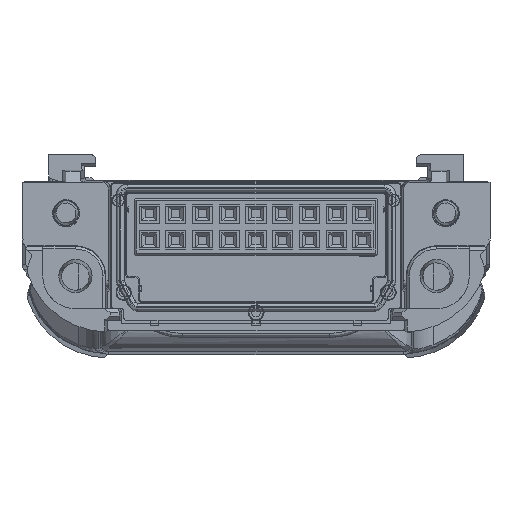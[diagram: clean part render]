
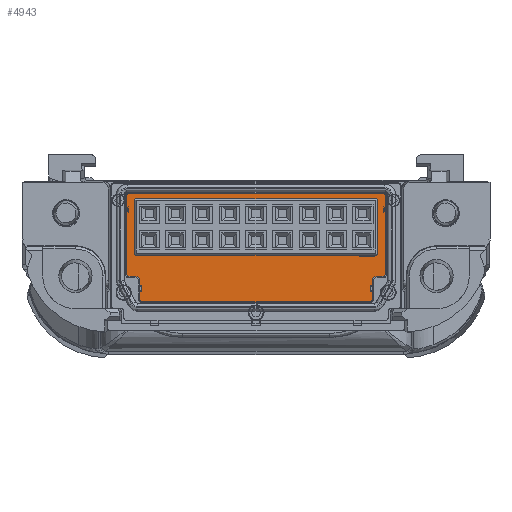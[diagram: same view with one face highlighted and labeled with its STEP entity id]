
A CAD part, top view. The second image highlights one B-rep face of the part: STEP entity #4943.
In plain terms, the highlighted planar face has unit normal (0, 0, 1) as drawn and (0, 0, -1) by its records, which use the part's own axes.
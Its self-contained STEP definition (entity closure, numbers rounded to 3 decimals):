
#400=ELLIPSE('',#13819,0.3,0.3);
#401=ELLIPSE('',#13820,0.3,0.3);
#402=ELLIPSE('',#13821,0.3,0.3);
#403=ELLIPSE('',#13822,0.3,0.3);
#404=ELLIPSE('',#13823,0.3,0.3);
#405=ELLIPSE('',#13824,0.3,0.3);
#406=ELLIPSE('',#13825,0.3,0.3);
#407=ELLIPSE('',#13826,0.3,0.3);
#1521=LINE('',#21059,#2897);
#1523=LINE('',#21063,#2899);
#1527=LINE('',#21075,#2903);
#1528=LINE('',#21077,#2904);
#1529=LINE('',#21097,#2905);
#1530=LINE('',#21102,#2906);
#1531=LINE('',#21106,#2907);
#1532=LINE('',#21110,#2908);
#1533=LINE('',#21114,#2909);
#1534=LINE('',#21118,#2910);
#1535=LINE('',#21122,#2911);
#1536=LINE('',#21126,#2912);
#2897=VECTOR('',#16508,1.);
#2899=VECTOR('',#16512,1.);
#2903=VECTOR('',#16526,1.);
#2904=VECTOR('',#16529,1.);
#2905=VECTOR('',#16568,1.);
#2906=VECTOR('',#16571,1.);
#2907=VECTOR('',#16574,1.);
#2908=VECTOR('',#16577,1.);
#2909=VECTOR('',#16580,1.);
#2910=VECTOR('',#16583,1.);
#2911=VECTOR('',#16586,1.);
#2912=VECTOR('',#16589,1.);
#3658=PLANE('',#13827);
#4943=ADVANCED_FACE('',(#5428,#5429),#3658,.F.);
#5428=FACE_BOUND('',#6035,.T.);
#5429=FACE_BOUND('',#6036,.T.);
#6035=EDGE_LOOP('',(#8722,#8723,#8724,#8725,#8726,#8727,#8728,#8729,#8730,
#8731,#8732,#8733,#8734,#8735,#8736,#8737));
#6036=EDGE_LOOP('',(#8738,#8739,#8740,#8741,#8742,#8743,#8744,#8745));
#8722=ORIENTED_EDGE('',*,*,#12480,.T.);
#8723=ORIENTED_EDGE('',*,*,#12481,.T.);
#8724=ORIENTED_EDGE('',*,*,#12482,.T.);
#8725=ORIENTED_EDGE('',*,*,#12483,.T.);
#8726=ORIENTED_EDGE('',*,*,#12484,.T.);
#8727=ORIENTED_EDGE('',*,*,#12485,.T.);
#8728=ORIENTED_EDGE('',*,*,#12486,.T.);
#8729=ORIENTED_EDGE('',*,*,#12487,.T.);
#8730=ORIENTED_EDGE('',*,*,#12488,.T.);
#8731=ORIENTED_EDGE('',*,*,#12489,.T.);
#8732=ORIENTED_EDGE('',*,*,#12490,.T.);
#8733=ORIENTED_EDGE('',*,*,#12491,.T.);
#8734=ORIENTED_EDGE('',*,*,#12492,.T.);
#8735=ORIENTED_EDGE('',*,*,#12493,.T.);
#8736=ORIENTED_EDGE('',*,*,#12494,.T.);
#8737=ORIENTED_EDGE('',*,*,#12495,.T.);
#8738=ORIENTED_EDGE('',*,*,#12476,.T.);
#8739=ORIENTED_EDGE('',*,*,#12472,.T.);
#8740=ORIENTED_EDGE('',*,*,#12475,.T.);
#8741=ORIENTED_EDGE('',*,*,#12478,.T.);
#8742=ORIENTED_EDGE('',*,*,#12468,.T.);
#8743=ORIENTED_EDGE('',*,*,#12470,.T.);
#8744=ORIENTED_EDGE('',*,*,#12465,.T.);
#8745=ORIENTED_EDGE('',*,*,#12479,.T.);
#10875=VERTEX_POINT('',#21048);
#10876=VERTEX_POINT('',#21050);
#10877=VERTEX_POINT('',#21054);
#10878=VERTEX_POINT('',#21056);
#10879=VERTEX_POINT('',#21062);
#10880=VERTEX_POINT('',#21064);
#10881=VERTEX_POINT('',#21068);
#10882=VERTEX_POINT('',#21072);
#10883=VERTEX_POINT('',#21098);
#10884=VERTEX_POINT('',#21099);
#10885=VERTEX_POINT('',#21101);
#10886=VERTEX_POINT('',#21103);
#10887=VERTEX_POINT('',#21105);
#10888=VERTEX_POINT('',#21107);
#10889=VERTEX_POINT('',#21109);
#10890=VERTEX_POINT('',#21111);
#10891=VERTEX_POINT('',#21113);
#10892=VERTEX_POINT('',#21115);
#10893=VERTEX_POINT('',#21117);
#10894=VERTEX_POINT('',#21119);
#10895=VERTEX_POINT('',#21121);
#10896=VERTEX_POINT('',#21123);
#10897=VERTEX_POINT('',#21125);
#10898=VERTEX_POINT('',#21127);
#12465=EDGE_CURVE('',#10876,#10875,#13071,.T.);
#12468=EDGE_CURVE('',#10878,#10877,#13072,.T.);
#12470=EDGE_CURVE('',#10877,#10876,#1521,.T.);
#12472=EDGE_CURVE('',#10880,#10879,#1523,.T.);
#12475=EDGE_CURVE('',#10879,#10881,#13073,.T.);
#12476=EDGE_CURVE('',#10882,#10880,#13074,.T.);
#12478=EDGE_CURVE('',#10881,#10878,#1527,.T.);
#12479=EDGE_CURVE('',#10875,#10882,#1528,.T.);
#12480=EDGE_CURVE('',#10883,#10884,#1529,.T.);
#12481=EDGE_CURVE('',#10884,#10885,#400,.T.);
#12482=EDGE_CURVE('',#10885,#10886,#1530,.T.);
#12483=EDGE_CURVE('',#10886,#10887,#401,.T.);
#12484=EDGE_CURVE('',#10887,#10888,#1531,.T.);
#12485=EDGE_CURVE('',#10888,#10889,#402,.T.);
#12486=EDGE_CURVE('',#10889,#10890,#1532,.T.);
#12487=EDGE_CURVE('',#10890,#10891,#403,.T.);
#12488=EDGE_CURVE('',#10891,#10892,#1533,.T.);
#12489=EDGE_CURVE('',#10892,#10893,#404,.T.);
#12490=EDGE_CURVE('',#10893,#10894,#1534,.T.);
#12491=EDGE_CURVE('',#10894,#10895,#405,.T.);
#12492=EDGE_CURVE('',#10895,#10896,#1535,.T.);
#12493=EDGE_CURVE('',#10896,#10897,#406,.T.);
#12494=EDGE_CURVE('',#10897,#10898,#1536,.T.);
#12495=EDGE_CURVE('',#10898,#10883,#407,.T.);
#13071=CIRCLE('',#13789,0.1);
#13072=CIRCLE('',#13791,0.1);
#13073=CIRCLE('',#13795,0.1);
#13074=CIRCLE('',#13797,0.1);
#13789=AXIS2_PLACEMENT_3D('',#21049,#16497,#16498);
#13791=AXIS2_PLACEMENT_3D('',#21055,#16503,#16504);
#13795=AXIS2_PLACEMENT_3D('',#21069,#16517,#16518);
#13797=AXIS2_PLACEMENT_3D('',#21071,#16521,#16522);
#13819=AXIS2_PLACEMENT_3D('',#21100,#16569,#16570);
#13820=AXIS2_PLACEMENT_3D('',#21104,#16572,#16573);
#13821=AXIS2_PLACEMENT_3D('',#21108,#16575,#16576);
#13822=AXIS2_PLACEMENT_3D('',#21112,#16578,#16579);
#13823=AXIS2_PLACEMENT_3D('',#21116,#16581,#16582);
#13824=AXIS2_PLACEMENT_3D('',#21120,#16584,#16585);
#13825=AXIS2_PLACEMENT_3D('',#21124,#16587,#16588);
#13826=AXIS2_PLACEMENT_3D('',#21128,#16590,#16591);
#13827=AXIS2_PLACEMENT_3D('',#21129,#16592,#16593);
#16497=DIRECTION('',(0.,0.,1.));
#16498=DIRECTION('',(-1.,0.,0.));
#16503=DIRECTION('',(0.,0.,1.));
#16504=DIRECTION('',(-1.,0.,0.));
#16508=DIRECTION('',(-1.,0.,0.));
#16512=DIRECTION('',(1.,0.,0.));
#16517=DIRECTION('',(0.,0.,1.));
#16518=DIRECTION('',(-1.,0.,0.));
#16521=DIRECTION('',(0.,0.,1.));
#16522=DIRECTION('',(-1.,0.,0.));
#16526=DIRECTION('',(0.,1.,0.));
#16529=DIRECTION('',(0.,-1.,0.));
#16568=DIRECTION('',(1.,0.,0.));
#16569=DIRECTION('',(0.,0.,-1.));
#16570=DIRECTION('',(0.707,0.707,0.));
#16571=DIRECTION('',(0.,-1.,0.));
#16572=DIRECTION('',(0.,0.,-1.));
#16573=DIRECTION('',(0.707,-0.707,0.));
#16574=DIRECTION('',(-1.,0.,0.));
#16575=DIRECTION('',(0.,0.,1.));
#16576=DIRECTION('',(-0.707,0.707,0.));
#16577=DIRECTION('',(0.,-1.,0.));
#16578=DIRECTION('',(0.,0.,-1.));
#16579=DIRECTION('',(0.707,-0.707,0.));
#16580=DIRECTION('',(-1.,0.,0.));
#16581=DIRECTION('',(0.,0.,-1.));
#16582=DIRECTION('',(-0.707,-0.707,0.));
#16583=DIRECTION('',(0.,1.,0.));
#16584=DIRECTION('',(0.,0.,1.));
#16585=DIRECTION('',(0.707,0.707,0.));
#16586=DIRECTION('',(-1.,0.,0.));
#16587=DIRECTION('',(0.,0.,-1.));
#16588=DIRECTION('',(-0.707,-0.707,0.));
#16589=DIRECTION('',(0.,1.,0.));
#16590=DIRECTION('',(0.,0.,-1.));
#16591=DIRECTION('',(-0.707,0.707,0.));
#16592=DIRECTION('',(0.,0.,1.));
#16593=DIRECTION('',(1.,0.,0.));
#21048=CARTESIAN_POINT('',(-26.6,10.,-1.3));
#21049=CARTESIAN_POINT('',(-26.5,10.,-1.3));
#21050=CARTESIAN_POINT('',(-26.5,10.1,-1.3));
#21054=CARTESIAN_POINT('',(-8.5,10.1,-1.3));
#21055=CARTESIAN_POINT('',(-8.5,10.,-1.3));
#21056=CARTESIAN_POINT('',(-8.4,10.,-1.3));
#21059=CARTESIAN_POINT('',(-8.5,10.1,-1.3));
#21062=CARTESIAN_POINT('',(-8.5,5.9,-1.3));
#21063=CARTESIAN_POINT('',(-26.5,5.9,-1.3));
#21064=CARTESIAN_POINT('',(-26.5,5.9,-1.3));
#21068=CARTESIAN_POINT('',(-8.4,6.,-1.3));
#21069=CARTESIAN_POINT('',(-8.5,6.,-1.3));
#21071=CARTESIAN_POINT('',(-26.5,6.,-1.3));
#21072=CARTESIAN_POINT('',(-26.6,6.,-1.3));
#21075=CARTESIAN_POINT('',(-8.4,6.,-1.3));
#21077=CARTESIAN_POINT('',(-26.6,10.,-1.3));
#21097=CARTESIAN_POINT('',(-17.5,10.5,-1.3));
#21098=CARTESIAN_POINT('',(-26.9,10.5,-1.3));
#21099=CARTESIAN_POINT('',(-8.1,10.5,-1.3));
#21100=CARTESIAN_POINT('',(-8.1,10.2,-1.3));
#21101=CARTESIAN_POINT('',(-7.8,10.2,-1.3));
#21102=CARTESIAN_POINT('',(-7.8,6.45,-1.3));
#21103=CARTESIAN_POINT('',(-7.8,4.6,-1.3));
#21104=CARTESIAN_POINT('',(-8.1,4.6,-1.3));
#21105=CARTESIAN_POINT('',(-8.1,4.3,-1.3));
#21106=CARTESIAN_POINT('',(-17.5,4.3,-1.3));
#21107=CARTESIAN_POINT('',(-8.5,4.3,-1.3));
#21108=CARTESIAN_POINT('',(-8.5,4.,-1.3));
#21109=CARTESIAN_POINT('',(-8.8,4.,-1.3));
#21110=CARTESIAN_POINT('',(-8.8,6.45,-1.3));
#21111=CARTESIAN_POINT('',(-8.8,2.7,-1.3));
#21112=CARTESIAN_POINT('',(-9.1,2.7,-1.3));
#21113=CARTESIAN_POINT('',(-9.1,2.4,-1.3));
#21114=CARTESIAN_POINT('',(-17.5,2.4,-1.3));
#21115=CARTESIAN_POINT('',(-25.9,2.4,-1.3));
#21116=CARTESIAN_POINT('',(-25.9,2.7,-1.3));
#21117=CARTESIAN_POINT('',(-26.2,2.7,-1.3));
#21118=CARTESIAN_POINT('',(-26.2,6.45,-1.3));
#21119=CARTESIAN_POINT('',(-26.2,4.,-1.3));
#21120=CARTESIAN_POINT('',(-26.5,4.,-1.3));
#21121=CARTESIAN_POINT('',(-26.5,4.3,-1.3));
#21122=CARTESIAN_POINT('',(-17.5,4.3,-1.3));
#21123=CARTESIAN_POINT('',(-26.9,4.3,-1.3));
#21124=CARTESIAN_POINT('',(-26.9,4.6,-1.3));
#21125=CARTESIAN_POINT('',(-27.2,4.6,-1.3));
#21126=CARTESIAN_POINT('',(-27.2,6.,-1.3));
#21127=CARTESIAN_POINT('',(-27.2,10.2,-1.3));
#21128=CARTESIAN_POINT('',(-26.9,10.2,-1.3));
#21129=CARTESIAN_POINT('',(-26.5,6.,-1.3));
